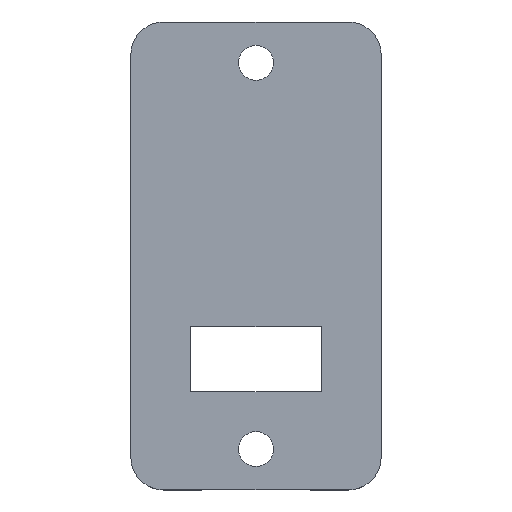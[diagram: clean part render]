
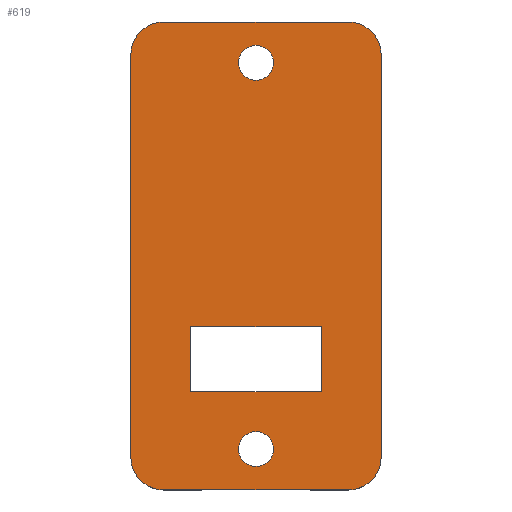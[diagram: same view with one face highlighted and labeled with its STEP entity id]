
A CAD part, top view. The second image highlights one B-rep face of the part: STEP entity #619.
In plain terms, the highlighted planar face has unit normal (0, 0, 1).
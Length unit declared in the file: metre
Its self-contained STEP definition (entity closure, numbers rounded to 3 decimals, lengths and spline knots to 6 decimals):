
#12=CIRCLE('',#654,0.0016);
#14=CIRCLE('',#657,0.0016);
#20=CIRCLE('',#667,0.003);
#22=CIRCLE('',#671,0.003);
#24=CIRCLE('',#675,0.003);
#25=CIRCLE('',#677,0.003);
#114=ORIENTED_EDGE('',*,*,#229,.F.);
#115=ORIENTED_EDGE('',*,*,#232,.T.);
#116=ORIENTED_EDGE('',*,*,#235,.T.);
#117=ORIENTED_EDGE('',*,*,#241,.F.);
#118=ORIENTED_EDGE('',*,*,#238,.F.);
#119=ORIENTED_EDGE('',*,*,#236,.F.);
#120=ORIENTED_EDGE('',*,*,#254,.T.);
#121=ORIENTED_EDGE('',*,*,#257,.T.);
#122=ORIENTED_EDGE('',*,*,#262,.T.);
#123=ORIENTED_EDGE('',*,*,#266,.T.);
#124=ORIENTED_EDGE('',*,*,#269,.F.);
#125=ORIENTED_EDGE('',*,*,#271,.T.);
#126=ORIENTED_EDGE('',*,*,#222,.F.);
#127=ORIENTED_EDGE('',*,*,#272,.T.);
#222=EDGE_CURVE('',#310,#311,#370,.T.);
#229=EDGE_CURVE('',#317,#314,#377,.T.);
#232=EDGE_CURVE('',#317,#319,#380,.T.);
#235=EDGE_CURVE('',#319,#321,#383,.T.);
#236=EDGE_CURVE('',#322,#322,#12,.T.);
#238=EDGE_CURVE('',#324,#324,#14,.T.);
#241=EDGE_CURVE('',#314,#321,#385,.T.);
#254=EDGE_CURVE('',#337,#336,#394,.T.);
#257=EDGE_CURVE('',#336,#338,#20,.T.);
#262=EDGE_CURVE('',#338,#343,#401,.T.);
#266=EDGE_CURVE('',#343,#345,#22,.T.);
#269=EDGE_CURVE('',#347,#345,#406,.T.);
#271=EDGE_CURVE('',#347,#311,#24,.T.);
#272=EDGE_CURVE('',#310,#337,#25,.T.);
#310=VERTEX_POINT('',#885);
#311=VERTEX_POINT('',#887);
#314=VERTEX_POINT('',#895);
#317=VERTEX_POINT('',#900);
#319=VERTEX_POINT('',#906);
#321=VERTEX_POINT('',#912);
#322=VERTEX_POINT('',#916);
#324=VERTEX_POINT('',#921);
#336=VERTEX_POINT('',#951);
#337=VERTEX_POINT('',#953);
#338=VERTEX_POINT('',#957);
#343=VERTEX_POINT('',#968);
#345=VERTEX_POINT('',#975);
#347=VERTEX_POINT('',#981);
#370=LINE('',#886,#438);
#377=LINE('',#901,#445);
#380=LINE('',#907,#448);
#383=LINE('',#913,#451);
#385=LINE('',#926,#453);
#394=LINE('',#952,#462);
#401=LINE('',#969,#469);
#406=LINE('',#982,#474);
#438=VECTOR('',#709,1.);
#445=VECTOR('',#718,1.);
#448=VECTOR('',#723,1.);
#451=VECTOR('',#728,1.);
#453=VECTOR('',#744,1.);
#462=VECTOR('',#765,1.);
#469=VECTOR('',#778,1.);
#474=VECTOR('',#791,1.);
#519=EDGE_LOOP('',(#114,#115,#116,#117));
#520=EDGE_LOOP('',(#118));
#521=EDGE_LOOP('',(#119));
#522=EDGE_LOOP('',(#120,#121,#122,#123,#124,#125,#126,#127));
#559=FACE_BOUND('',#519,.T.);
#560=FACE_BOUND('',#520,.T.);
#561=FACE_BOUND('',#521,.T.);
#562=FACE_BOUND('',#522,.T.);
#591=PLANE('',#678);
#619=ADVANCED_FACE('',(#559,#560,#561,#562),#591,.T.);
#654=AXIS2_PLACEMENT_3D('',#915,#731,#732);
#657=AXIS2_PLACEMENT_3D('',#920,#737,#738);
#667=AXIS2_PLACEMENT_3D('',#958,#770,#771);
#671=AXIS2_PLACEMENT_3D('',#976,#785,#786);
#675=AXIS2_PLACEMENT_3D('',#985,#796,#797);
#677=AXIS2_PLACEMENT_3D('',#987,#800,#801);
#678=AXIS2_PLACEMENT_3D('',#988,#802,#803);
#709=DIRECTION('',(-1.,0.,0.));
#718=DIRECTION('',(-1.,0.,0.));
#723=DIRECTION('',(0.,-1.,0.));
#728=DIRECTION('',(-1.,0.,0.));
#731=DIRECTION('',(0.,0.,1.));
#732=DIRECTION('',(1.,0.,0.));
#737=DIRECTION('',(0.,0.,1.));
#738=DIRECTION('',(1.,0.,0.));
#744=DIRECTION('',(0.,-1.,0.));
#765=DIRECTION('',(0.,1.,0.));
#770=DIRECTION('',(0.,0.,1.));
#771=DIRECTION('',(1.,0.,0.));
#778=DIRECTION('',(-1.,0.,0.));
#785=DIRECTION('',(0.,0.,1.));
#786=DIRECTION('',(1.,0.,0.));
#791=DIRECTION('',(0.,1.,0.));
#796=DIRECTION('',(0.,0.,1.));
#797=DIRECTION('',(1.,0.,0.));
#800=DIRECTION('',(0.,0.,1.));
#801=DIRECTION('',(1.,0.,0.));
#802=DIRECTION('',(0.,0.,1.));
#803=DIRECTION('',(1.,0.,0.));
#885=CARTESIAN_POINT('',(0.0085,-0.0215,0.0044));
#886=CARTESIAN_POINT('',(0.,-0.0215,0.0044));
#887=CARTESIAN_POINT('',(-0.0085,-0.0215,0.0044));
#895=CARTESIAN_POINT('',(-0.006,-0.0065,0.0044));
#900=CARTESIAN_POINT('',(0.006,-0.0065,0.0044));
#901=CARTESIAN_POINT('',(0.,-0.0065,0.0044));
#906=CARTESIAN_POINT('',(0.006,-0.0125,0.0044));
#907=CARTESIAN_POINT('',(0.006,-0.0095,0.0044));
#912=CARTESIAN_POINT('',(-0.006,-0.0125,0.0044));
#913=CARTESIAN_POINT('',(0.,-0.0125,0.0044));
#915=CARTESIAN_POINT('',(0.,0.01775,0.0044));
#916=CARTESIAN_POINT('',(0.0016,0.01775,0.0044));
#920=CARTESIAN_POINT('',(0.,-0.01775,0.0044));
#921=CARTESIAN_POINT('',(0.0016,-0.01775,0.0044));
#926=CARTESIAN_POINT('',(-0.006,-0.0095,0.0044));
#951=CARTESIAN_POINT('',(0.0115,0.0185,0.0044));
#952=CARTESIAN_POINT('',(0.0115,0.,0.0044));
#953=CARTESIAN_POINT('',(0.0115,-0.0185,0.0044));
#957=CARTESIAN_POINT('',(0.0085,0.0215,0.0044));
#958=CARTESIAN_POINT('',(0.0085,0.0185,0.0044));
#968=CARTESIAN_POINT('',(-0.0085,0.0215,0.0044));
#969=CARTESIAN_POINT('',(0.,0.0215,0.0044));
#975=CARTESIAN_POINT('',(-0.0115,0.0185,0.0044));
#976=CARTESIAN_POINT('',(-0.0085,0.0185,0.0044));
#981=CARTESIAN_POINT('',(-0.0115,-0.0185,0.0044));
#982=CARTESIAN_POINT('',(-0.0115,0.,0.0044));
#985=CARTESIAN_POINT('',(-0.0085,-0.0185,0.0044));
#987=CARTESIAN_POINT('',(0.0085,-0.0185,0.0044));
#988=CARTESIAN_POINT('',(0.,0.,0.0044));
